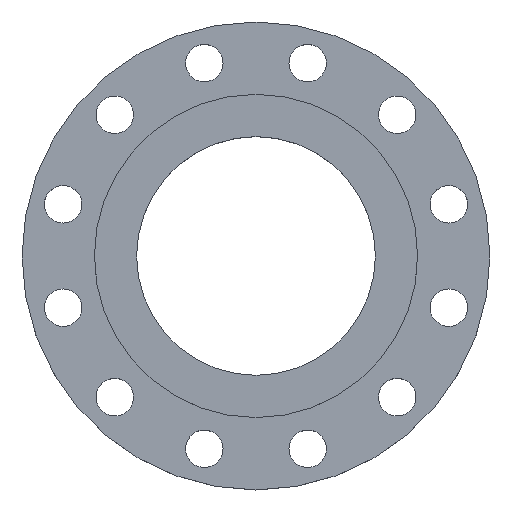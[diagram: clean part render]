
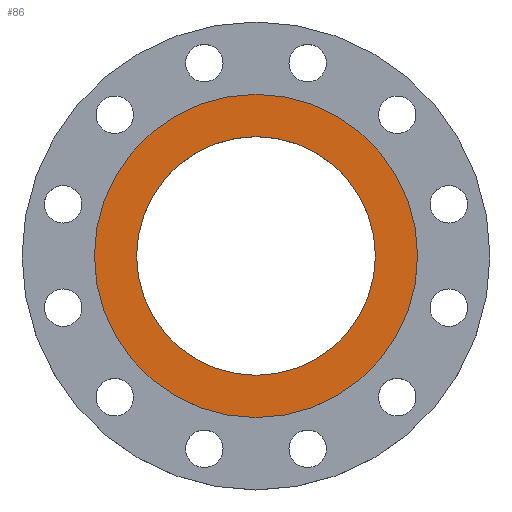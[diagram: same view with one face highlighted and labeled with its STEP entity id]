
A CAD part, top view. The second image highlights one B-rep face of the part: STEP entity #86.
In plain terms, the highlighted planar face has unit normal (0, 0, 1).
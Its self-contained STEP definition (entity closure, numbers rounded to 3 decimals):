
#14 = AXIS2_PLACEMENT_3D ( 'NONE', #813, #741, #1127 ) ;
#39 = CARTESIAN_POINT ( 'NONE',  ( -95.67, 0., 0. ) ) ;
#63 = CARTESIAN_POINT ( 'NONE',  ( -129.5, 0., 0. ) ) ;
#86 = ADVANCED_FACE ( 'NONE', ( #1126, #1131 ), #809, .T. ) ;
#127 = CIRCLE ( 'NONE', #136, 129.5 ) ;
#136 = AXIS2_PLACEMENT_3D ( 'NONE', #293, #292, #290 ) ;
#205 = CARTESIAN_POINT ( 'NONE',  ( 95.67, 0., 0. ) ) ;
#290 = DIRECTION ( 'NONE',  ( -1., 0., 0. ) ) ;
#292 = DIRECTION ( 'NONE',  ( 0., 0., -1. ) ) ;
#293 = CARTESIAN_POINT ( 'NONE',  ( 0., 0., 0. ) ) ;
#401 = DIRECTION ( 'NONE',  ( -1., 0., 0. ) ) ;
#402 = DIRECTION ( 'NONE',  ( 0., 0., -1. ) ) ;
#403 = CARTESIAN_POINT ( 'NONE',  ( 0., 0., 0. ) ) ;
#434 = DIRECTION ( 'NONE',  ( 1., 0., 0. ) ) ;
#435 = DIRECTION ( 'NONE',  ( 0., 0., 1. ) ) ;
#436 = CARTESIAN_POINT ( 'NONE',  ( 0., 0., 0. ) ) ;
#482 = DIRECTION ( 'NONE',  ( 1., 0., 0. ) ) ;
#483 = DIRECTION ( 'NONE',  ( 0., 0., 1. ) ) ;
#484 = CARTESIAN_POINT ( 'NONE',  ( 0., 0., 0. ) ) ;
#506 = CARTESIAN_POINT ( 'NONE',  ( 129.5, 0., 0. ) ) ;
#555 = CIRCLE ( 'NONE', #558, 95.67 ) ;
#558 = AXIS2_PLACEMENT_3D ( 'NONE', #436, #435, #434 ) ;
#574 = AXIS2_PLACEMENT_3D ( 'NONE', #403, #402, #401 ) ;
#741 = DIRECTION ( 'NONE',  ( 0., 0., 1. ) ) ;
#746 = EDGE_LOOP ( 'NONE', ( #1030, #1031 ) ) ;
#809 = PLANE ( 'NONE',  #14 ) ;
#813 = CARTESIAN_POINT ( 'NONE',  ( 0., 0., 0. ) ) ;
#876 = AXIS2_PLACEMENT_3D ( 'NONE', #484, #483, #482 ) ;
#883 = CIRCLE ( 'NONE', #876, 95.67 ) ;
#921 = VERTEX_POINT ( 'NONE', #506 ) ;
#945 = EDGE_CURVE ( 'NONE', #1196, #1286, #883, .T. ) ;
#1010 = CIRCLE ( 'NONE', #574, 129.5 ) ;
#1025 = EDGE_CURVE ( 'NONE', #1286, #1196, #555, .T. ) ;
#1028 = ORIENTED_EDGE ( 'NONE', *, *, #945, .F. ) ;
#1029 = ORIENTED_EDGE ( 'NONE', *, *, #1025, .F. ) ;
#1030 = ORIENTED_EDGE ( 'NONE', *, *, #1124, .F. ) ;
#1031 = ORIENTED_EDGE ( 'NONE', *, *, #1169, .F. ) ;
#1124 = EDGE_CURVE ( 'NONE', #1259, #921, #1010, .T. ) ;
#1126 = FACE_BOUND ( 'NONE', #1271, .T. ) ;
#1127 = DIRECTION ( 'NONE',  ( 1., 0., 0. ) ) ;
#1131 = FACE_OUTER_BOUND ( 'NONE', #746, .T. ) ;
#1169 = EDGE_CURVE ( 'NONE', #921, #1259, #127, .T. ) ;
#1196 = VERTEX_POINT ( 'NONE', #205 ) ;
#1259 = VERTEX_POINT ( 'NONE', #63 ) ;
#1271 = EDGE_LOOP ( 'NONE', ( #1028, #1029 ) ) ;
#1286 = VERTEX_POINT ( 'NONE', #39 ) ;
